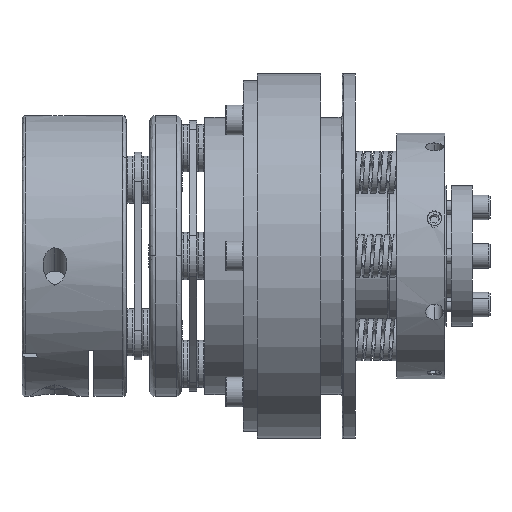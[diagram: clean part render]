
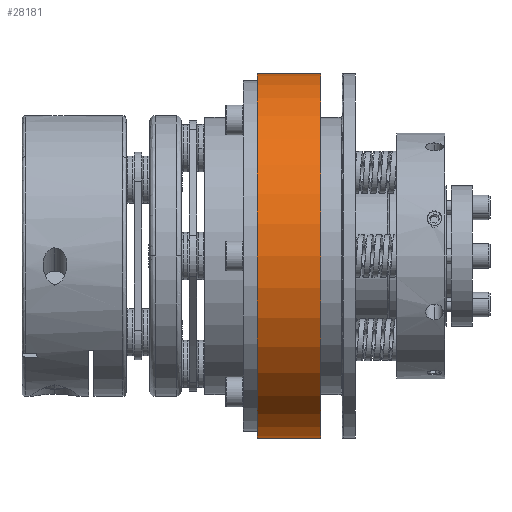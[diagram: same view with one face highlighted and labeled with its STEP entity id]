
A CAD part, front view. The second image highlights one B-rep face of the part: STEP entity #28181.
In plain terms, the highlighted cylindrical face has radius 52 mm (diameter 104 mm), a partial arc.
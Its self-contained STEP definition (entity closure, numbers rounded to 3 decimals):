
#2026 = VERTEX_POINT ( 'NONE', #40906 ) ;
#2885 = DIRECTION ( 'NONE',  ( 1., 0., 0. ) ) ;
#6028 = ORIENTED_EDGE ( 'NONE', *, *, #10617, .T. ) ;
#7694 = CARTESIAN_POINT ( 'NONE',  ( 0., 0., 0. ) ) ;
#9158 = EDGE_LOOP ( 'NONE', ( #37132, #6028, #39425, #10487 ) ) ;
#9664 = CIRCLE ( 'NONE', #50465, 52. ) ;
#10068 = CARTESIAN_POINT ( 'NONE',  ( -35.75, 0., -52. ) ) ;
#10487 = ORIENTED_EDGE ( 'NONE', *, *, #44441, .F. ) ;
#10617 = EDGE_CURVE ( 'NONE', #2026, #40251, #22857, .T. ) ;
#13185 = DIRECTION ( 'NONE',  ( 0., 0., -1. ) ) ;
#16765 = DIRECTION ( 'NONE',  ( 0., 0., -1. ) ) ;
#17079 = CARTESIAN_POINT ( 'NONE',  ( -53.75, 0., -52. ) ) ;
#20824 = LINE ( 'NONE', #26631, #59095 ) ;
#21619 = CYLINDRICAL_SURFACE ( 'NONE', #23612, 52. ) ;
#22857 = CIRCLE ( 'NONE', #24410, 52. ) ;
#23612 = AXIS2_PLACEMENT_3D ( 'NONE', #7694, #26226, #16765 ) ;
#24410 = AXIS2_PLACEMENT_3D ( 'NONE', #59599, #41039, #13185 ) ;
#24582 = CARTESIAN_POINT ( 'NONE',  ( -35.75, 0., 0. ) ) ;
#26226 = DIRECTION ( 'NONE',  ( 1., 0., 0. ) ) ;
#26583 = LINE ( 'NONE', #29902, #28734 ) ;
#26631 = CARTESIAN_POINT ( 'NONE',  ( 0., 0., 52. ) ) ;
#28181 = ADVANCED_FACE ( 'NONE', ( #46872 ), #21619, .T. ) ;
#28734 = VECTOR ( 'NONE', #30287, 1000. ) ;
#29902 = CARTESIAN_POINT ( 'NONE',  ( 0., 0., -52. ) ) ;
#30287 = DIRECTION ( 'NONE',  ( 1., 0., 0. ) ) ;
#34066 = DIRECTION ( 'NONE',  ( 0., 0., -1. ) ) ;
#37132 = ORIENTED_EDGE ( 'NONE', *, *, #53166, .F. ) ;
#39425 = ORIENTED_EDGE ( 'NONE', *, *, #52954, .T. ) ;
#39846 = CARTESIAN_POINT ( 'NONE',  ( -35.75, 0., 52. ) ) ;
#40251 = VERTEX_POINT ( 'NONE', #17079 ) ;
#40906 = CARTESIAN_POINT ( 'NONE',  ( -53.75, 0., 52. ) ) ;
#41039 = DIRECTION ( 'NONE',  ( 1., 0., 0. ) ) ;
#44441 = EDGE_CURVE ( 'NONE', #47402, #46240, #9664, .T. ) ;
#46240 = VERTEX_POINT ( 'NONE', #10068 ) ;
#46872 = FACE_OUTER_BOUND ( 'NONE', #9158, .T. ) ;
#47402 = VERTEX_POINT ( 'NONE', #39846 ) ;
#50465 = AXIS2_PLACEMENT_3D ( 'NONE', #24582, #56918, #34066 ) ;
#52954 = EDGE_CURVE ( 'NONE', #40251, #46240, #26583, .T. ) ;
#53166 = EDGE_CURVE ( 'NONE', #2026, #47402, #20824, .T. ) ;
#56918 = DIRECTION ( 'NONE',  ( 1., 0., 0. ) ) ;
#59095 = VECTOR ( 'NONE', #2885, 1000. ) ;
#59599 = CARTESIAN_POINT ( 'NONE',  ( -53.75, 0., 0. ) ) ;
